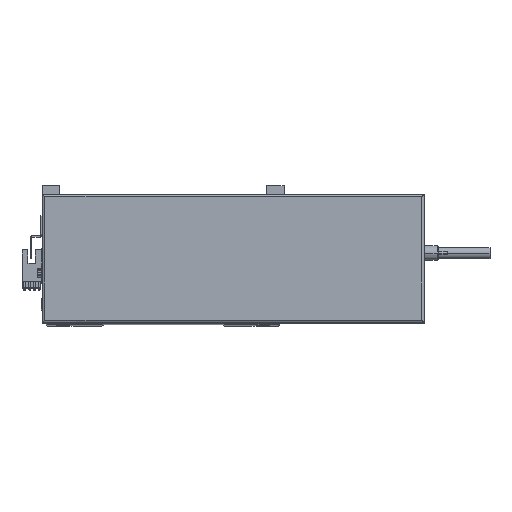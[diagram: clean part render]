
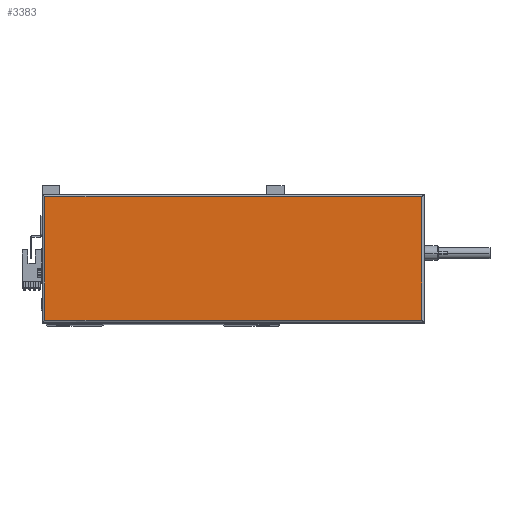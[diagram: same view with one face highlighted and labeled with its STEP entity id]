
A CAD part, top view. The second image highlights one B-rep face of the part: STEP entity #3383.
In plain terms, the highlighted planar face has unit normal (0, 0, 1).
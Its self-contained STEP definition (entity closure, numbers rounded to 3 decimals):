
#3383 = ADVANCED_FACE ( 'NONE', ( #42753 ), #48597, .T. ) ;
#9203 = ORIENTED_EDGE ( 'NONE', *, *, #50950, .T. ) ;
#9974 = EDGE_CURVE ( 'NONE', #30766, #42530, #29440, .T. ) ;
#10001 = EDGE_LOOP ( 'NONE', ( #9203, #18182, #35063, #45789 ) ) ;
#12033 = CARTESIAN_POINT ( 'NONE',  ( 265., 88., 44.8 ) ) ;
#12482 = DIRECTION ( 'NONE',  ( 1., 0., 0. ) ) ;
#12982 = DIRECTION ( 'NONE',  ( 0., 0., 1. ) ) ;
#13367 = VECTOR ( 'NONE', #46289, 1000. ) ;
#14813 = AXIS2_PLACEMENT_3D ( 'NONE', #16417, #12982, #12482 ) ;
#15217 = CARTESIAN_POINT ( 'NONE',  ( 265., 90., 44.8 ) ) ;
#15286 = CARTESIAN_POINT ( 'NONE',  ( 0., 88., 44.8 ) ) ;
#16417 = CARTESIAN_POINT ( 'NONE',  ( 133.5, 45., 44.8 ) ) ;
#18182 = ORIENTED_EDGE ( 'NONE', *, *, #29264, .T. ) ;
#18445 = VERTEX_POINT ( 'NONE', #12033 ) ;
#19300 = CARTESIAN_POINT ( 'NONE',  ( 265., 2., 44.8 ) ) ;
#19317 = CARTESIAN_POINT ( 'NONE',  ( 2., 88., 44.8 ) ) ;
#21791 = CARTESIAN_POINT ( 'NONE',  ( 2., 0., 44.8 ) ) ;
#22478 = VECTOR ( 'NONE', #27003, 1000. ) ;
#24949 = LINE ( 'NONE', #15286, #22478 ) ;
#25922 = LINE ( 'NONE', #21791, #37622 ) ;
#26774 = DIRECTION ( 'NONE',  ( 0., 1., 0. ) ) ;
#27003 = DIRECTION ( 'NONE',  ( -1., 0., 0. ) ) ;
#28400 = VERTEX_POINT ( 'NONE', #19317 ) ;
#29264 = EDGE_CURVE ( 'NONE', #18445, #28400, #24949, .T. ) ;
#29440 = LINE ( 'NONE', #30331, #13367 ) ;
#30331 = CARTESIAN_POINT ( 'NONE',  ( 267., 2., 44.8 ) ) ;
#30766 = VERTEX_POINT ( 'NONE', #31109 ) ;
#31109 = CARTESIAN_POINT ( 'NONE',  ( 2., 2., 44.8 ) ) ;
#35063 = ORIENTED_EDGE ( 'NONE', *, *, #47486, .T. ) ;
#37622 = VECTOR ( 'NONE', #37807, 1000. ) ;
#37807 = DIRECTION ( 'NONE',  ( 0., -1., 0. ) ) ;
#39649 = VECTOR ( 'NONE', #26774, 1000. ) ;
#40259 = LINE ( 'NONE', #15217, #39649 ) ;
#42530 = VERTEX_POINT ( 'NONE', #19300 ) ;
#42753 = FACE_OUTER_BOUND ( 'NONE', #10001, .T. ) ;
#45789 = ORIENTED_EDGE ( 'NONE', *, *, #9974, .T. ) ;
#46289 = DIRECTION ( 'NONE',  ( 1., 0., 0. ) ) ;
#47486 = EDGE_CURVE ( 'NONE', #28400, #30766, #25922, .T. ) ;
#48597 = PLANE ( 'NONE',  #14813 ) ;
#50950 = EDGE_CURVE ( 'NONE', #42530, #18445, #40259, .T. ) ;
